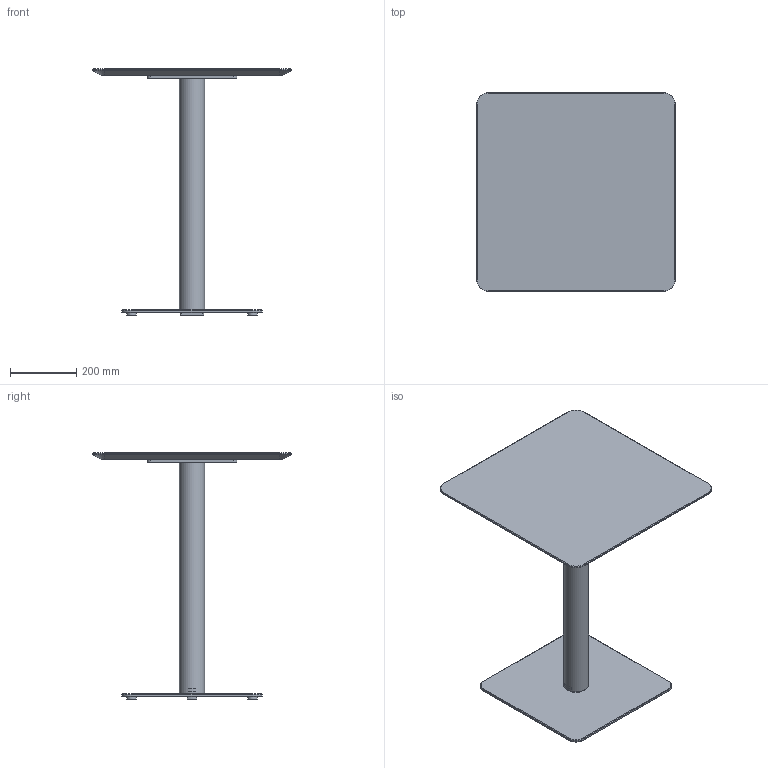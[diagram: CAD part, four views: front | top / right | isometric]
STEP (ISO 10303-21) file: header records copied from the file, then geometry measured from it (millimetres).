
FILE_DESCRIPTION( ('This file contains a STEP AP42 implementation' ,'as created by ZW3D STEP Interface translator.') ,'2;1' );
FILE_NAME( 'Henri - B_Carré - F3 - M5 - 600 x 600 x 750.stp' ,'24 912.171423', (''), ('ZWCAD Software Co.'), 'Version 1.0', 'ZW3D to STEP translator', '' );
FILE_SCHEMA(('AUTOMOTIVE_DESIGN { 1 0 10303 214 1 1 1 1 }'));
Length unit declared in the file: millimetre
Products named in the file (14): 0; PIED BISTROT PARAMETRIQUE_; COLONNE ACIER Ø76 V.02_; TUB-D076-02_; PLA-R76B-01_; CROIX ACIER 370 V.02_; CRX-X370-02_; SOCLE ACIER L 425x425 V.02_; SCL-R425-02_; PLA-R30A-01_; PLA-R30A-01; WUERTH 0276063020 Euro-screw 6.3x2 Verzinkt_; PLATEAU BISTROT PARAMETRIQUE_; insert_m6_13_
Assembly tree (22 placements, depth 3):
  0
  PIED BISTROT PARAMETRIQUE_
    COLONNE ACIER Ø76 V.02_
      TUB-D076-02_
      PLA-R76B-01_  x2
    CROIX ACIER 370 V.02_
      CRX-X370-02_
    SOCLE ACIER L 425x425 V.02_
      SCL-R425-02_
      PLA-R30A-01_
      PLA-R30A-01  x3
    WUERTH 0276063020 Euro-screw 6.3x2 Verzinkt_
    PLATEAU BISTROT PARAMETRIQUE_
      insert_m6_13_  x8
Bounding box: 600 x 600 x 744 mm (x, y, z)
Volume: 9108799.2 mm3; surface area: 1629898.3 mm2
Topology: 19 solids, 19 shells, 537 faces, 1310 edges, 822 vertices
Faces by surface type: plane 262, bspline 121, cylinder 98, cone 55, torus 1
Full cylindrical faces by diameter (mm): 4.88 x1, 6 x8, 6.3 x1, 8 x45, 12 x2, 14 x2, 30 x4, 72 x1, 76 x1
Entity records: 12310 total; most frequent: CARTESIAN_POINT 3396, ORIENTED_EDGE 1624, DIRECTION 1519, EDGE_CURVE 812, VERTEX_POINT 518, VECTOR 513, LINE 513, AXIS2_PLACEMENT_3D 503
